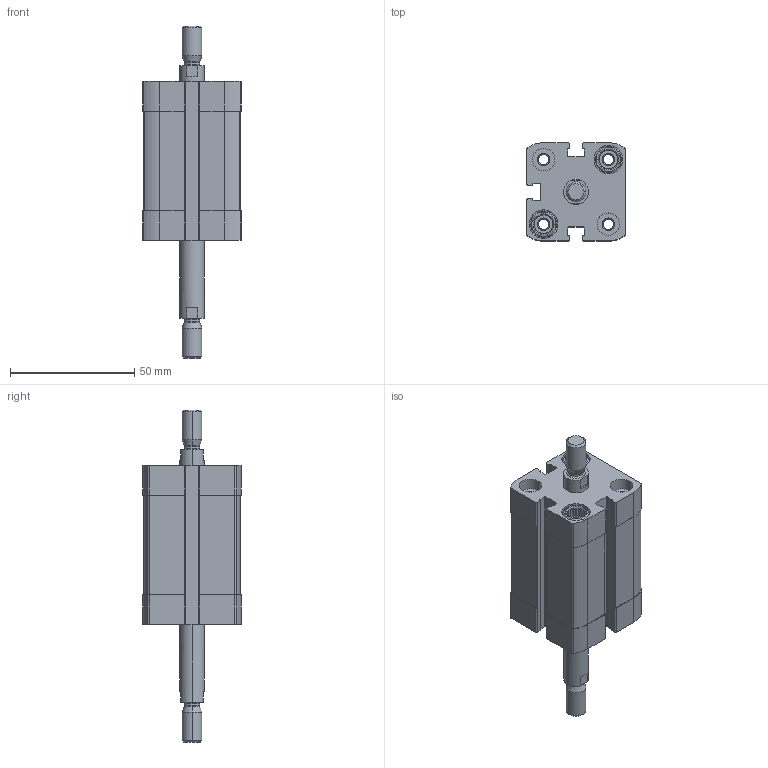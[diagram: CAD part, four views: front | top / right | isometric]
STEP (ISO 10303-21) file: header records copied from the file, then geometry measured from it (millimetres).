
FILE_DESCRIPTION (( 'STEP AP203' ), '1' );
FILE_NAME ('CCN25-25-P.STEP', '2020-06-22T18:43:03', ( '' ), ( '' ), 'SwSTEP 2.0', 'SolidWorks 2019', '' );
FILE_SCHEMA (( 'CONFIG_CONTROL_DESIGN' ));
Length unit declared in the file: millimetre
Products named in the file (1): CCN25-25-P
Bounding box: 39.5 x 39.5 x 133.5 mm (x, y, z)
Volume: 78075 mm3; surface area: 30521.5 mm2
Topology: 2 solids, 2 shells, 428 faces, 1120 edges, 728 vertices
Faces by surface type: plane 236, cylinder 140, cone 44, torus 8
Entity records: 13423 total; most frequent: CARTESIAN_POINT 2577, DIRECTION 2314, ORIENTED_EDGE 2240, EDGE_CURVE 1120, AXIS2_PLACEMENT_3D 865, VERTEX_POINT 728, VECTOR 584, LINE 584
